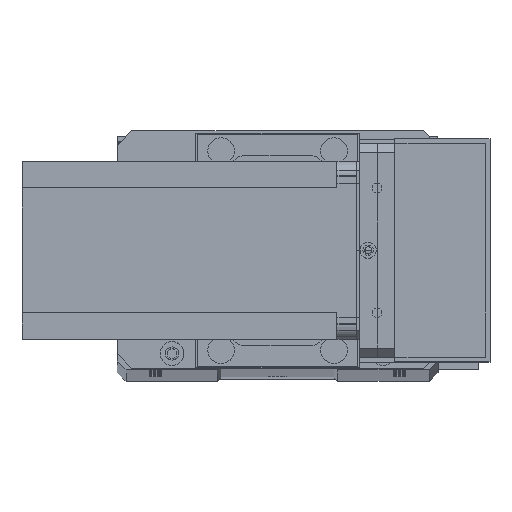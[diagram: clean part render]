
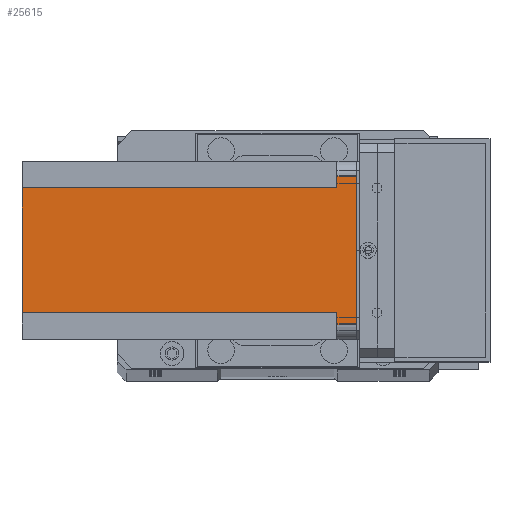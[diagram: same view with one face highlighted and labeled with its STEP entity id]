
A CAD part, top view. The second image highlights one B-rep face of the part: STEP entity #25615.
In plain terms, the highlighted planar face has unit normal (0, 0, 1) as drawn and (1, 0, 0) by its records, which use the part's own axes.
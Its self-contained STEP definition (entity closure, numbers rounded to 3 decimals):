
#344 = LINE ( 'NONE', #18689, #20127 ) ;
#814 = PLANE ( 'NONE',  #2600 ) ;
#864 = VECTOR ( 'NONE', #28693, 1000. ) ;
#972 = FACE_OUTER_BOUND ( 'NONE', #7562, .T. ) ;
#1057 = LINE ( 'NONE', #32381, #27694 ) ;
#1543 = CARTESIAN_POINT ( 'NONE',  ( 60., 9., -112.5 ) ) ;
#2600 = AXIS2_PLACEMENT_3D ( 'NONE', #16417, #21555, #6120 ) ;
#2610 = CARTESIAN_POINT ( 'NONE',  ( 60., 5., -112.5 ) ) ;
#3347 = ORIENTED_EDGE ( 'NONE', *, *, #22886, .F. ) ;
#3536 = CARTESIAN_POINT ( 'NONE',  ( 60., 55., 0. ) ) ;
#4116 = VERTEX_POINT ( 'NONE', #23802 ) ;
#4569 = VECTOR ( 'NONE', #7791, 1000. ) ;
#5204 = ORIENTED_EDGE ( 'NONE', *, *, #12993, .F. ) ;
#5391 = LINE ( 'NONE', #2610, #4569 ) ;
#6120 = DIRECTION ( 'NONE',  ( 0., 1., 0. ) ) ;
#6663 = DIRECTION ( 'NONE',  ( 0., 0., 1. ) ) ;
#7498 = VERTEX_POINT ( 'NONE', #3536 ) ;
#7562 = EDGE_LOOP ( 'NONE', ( #3347, #16644, #23795, #29359, #10002, #5204, #29340, #27632 ) ) ;
#7659 = EDGE_CURVE ( 'NONE', #16803, #30921, #9385, .T. ) ;
#7791 = DIRECTION ( 'NONE',  ( 0., 0., -1. ) ) ;
#7933 = EDGE_CURVE ( 'NONE', #26504, #13876, #8966, .T. ) ;
#8966 = LINE ( 'NONE', #28400, #15019 ) ;
#9371 = CARTESIAN_POINT ( 'NONE',  ( 60., 5., -6.5 ) ) ;
#9385 = LINE ( 'NONE', #27304, #29164 ) ;
#10002 = ORIENTED_EDGE ( 'NONE', *, *, #7659, .F. ) ;
#10360 = DIRECTION ( 'NONE',  ( 0., 0., -1. ) ) ;
#10702 = EDGE_CURVE ( 'NONE', #4116, #13876, #30626, .T. ) ;
#12088 = CARTESIAN_POINT ( 'NONE',  ( 60., 51., -112.5 ) ) ;
#12130 = EDGE_CURVE ( 'NONE', #16854, #30921, #5391, .T. ) ;
#12993 = EDGE_CURVE ( 'NONE', #4116, #16803, #21458, .T. ) ;
#13233 = CARTESIAN_POINT ( 'NONE',  ( 60., 0., 0. ) ) ;
#13876 = VERTEX_POINT ( 'NONE', #12088 ) ;
#13884 = DIRECTION ( 'NONE',  ( 0., 1., 0. ) ) ;
#14575 = LINE ( 'NONE', #13233, #864 ) ;
#14596 = VECTOR ( 'NONE', #29838, 1000. ) ;
#15019 = VECTOR ( 'NONE', #10360, 1000. ) ;
#16417 = CARTESIAN_POINT ( 'NONE',  ( 60., 0., -112.5 ) ) ;
#16644 = ORIENTED_EDGE ( 'NONE', *, *, #16674, .T. ) ;
#16674 = EDGE_CURVE ( 'NONE', #16812, #7498, #1057, .T. ) ;
#16803 = VERTEX_POINT ( 'NONE', #20076 ) ;
#16812 = VERTEX_POINT ( 'NONE', #25264 ) ;
#16854 = VERTEX_POINT ( 'NONE', #33046 ) ;
#18689 = CARTESIAN_POINT ( 'NONE',  ( 60., 60., -6.5 ) ) ;
#20076 = CARTESIAN_POINT ( 'NONE',  ( 60., 9., -6.5 ) ) ;
#20127 = VECTOR ( 'NONE', #21263, 1000. ) ;
#21181 = EDGE_CURVE ( 'NONE', #16854, #7498, #14575, .T. ) ;
#21263 = DIRECTION ( 'NONE',  ( 0., -1., 0. ) ) ;
#21458 = LINE ( 'NONE', #1543, #14596 ) ;
#21555 = DIRECTION ( 'NONE',  ( 1., 0., 0. ) ) ;
#22886 = EDGE_CURVE ( 'NONE', #16812, #26504, #344, .T. ) ;
#23756 = VECTOR ( 'NONE', #13884, 1000. ) ;
#23795 = ORIENTED_EDGE ( 'NONE', *, *, #21181, .F. ) ;
#23802 = CARTESIAN_POINT ( 'NONE',  ( 60., 9., -112.5 ) ) ;
#24139 = CARTESIAN_POINT ( 'NONE',  ( 60., 0., -112.5 ) ) ;
#25264 = CARTESIAN_POINT ( 'NONE',  ( 60., 55., -6.5 ) ) ;
#25615 = ADVANCED_FACE ( 'NONE', ( #972 ), #814, .T. ) ;
#26504 = VERTEX_POINT ( 'NONE', #30879 ) ;
#27304 = CARTESIAN_POINT ( 'NONE',  ( 60., 0., -6.5 ) ) ;
#27632 = ORIENTED_EDGE ( 'NONE', *, *, #7933, .F. ) ;
#27694 = VECTOR ( 'NONE', #6663, 1000. ) ;
#28400 = CARTESIAN_POINT ( 'NONE',  ( 60., 51., -112.5 ) ) ;
#28693 = DIRECTION ( 'NONE',  ( 0., 1., 0. ) ) ;
#29164 = VECTOR ( 'NONE', #29987, 1000. ) ;
#29340 = ORIENTED_EDGE ( 'NONE', *, *, #10702, .T. ) ;
#29359 = ORIENTED_EDGE ( 'NONE', *, *, #12130, .T. ) ;
#29838 = DIRECTION ( 'NONE',  ( 0., 0., 1. ) ) ;
#29987 = DIRECTION ( 'NONE',  ( 0., -1., 0. ) ) ;
#30626 = LINE ( 'NONE', #24139, #23756 ) ;
#30879 = CARTESIAN_POINT ( 'NONE',  ( 60., 51., -6.5 ) ) ;
#30921 = VERTEX_POINT ( 'NONE', #9371 ) ;
#32381 = CARTESIAN_POINT ( 'NONE',  ( 60., 55., -112.5 ) ) ;
#33046 = CARTESIAN_POINT ( 'NONE',  ( 60., 5., 0. ) ) ;
